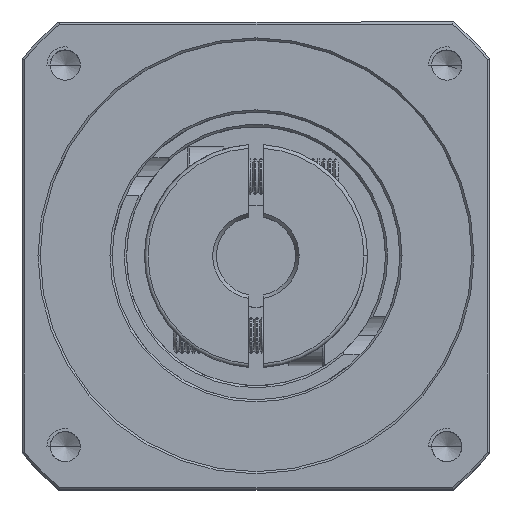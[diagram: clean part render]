
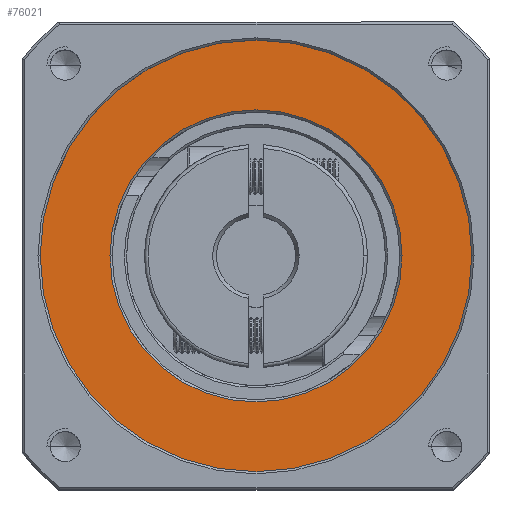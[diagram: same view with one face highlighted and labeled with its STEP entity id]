
A CAD part, top view. The second image highlights one B-rep face of the part: STEP entity #76021.
In plain terms, the highlighted planar face has unit normal (0, 0, 1).
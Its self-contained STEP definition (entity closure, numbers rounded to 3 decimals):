
#1002 = VERTEX_POINT ( 'NONE', #19109 ) ;
#1067 = CARTESIAN_POINT ( 'NONE',  ( -70.41, 31.886, 11.125 ) ) ;
#1122 = DIRECTION ( 'NONE',  ( 0., 0., -1. ) ) ;
#8459 = DIRECTION ( 'NONE',  ( 1., 0., 0. ) ) ;
#8748 = AXIS2_PLACEMENT_3D ( 'NONE', #75046, #31054, #82398 ) ;
#9372 = AXIS2_PLACEMENT_3D ( 'NONE', #25316, #76719, #32765 ) ;
#11380 = EDGE_CURVE ( 'NONE', #15835, #12738, #74453, .T. ) ;
#11706 = CARTESIAN_POINT ( 'NONE',  ( -90.71, 31.886, 11.125 ) ) ;
#12738 = VERTEX_POINT ( 'NONE', #62640 ) ;
#15835 = VERTEX_POINT ( 'NONE', #11706 ) ;
#19109 = CARTESIAN_POINT ( 'NONE',  ( -100.41, 31.886, 11.125 ) ) ;
#21889 = EDGE_CURVE ( 'NONE', #1002, #84280, #40387, .T. ) ;
#22261 = EDGE_CURVE ( 'NONE', #12738, #15835, #34515, .T. ) ;
#25316 = CARTESIAN_POINT ( 'NONE',  ( -70.41, 31.886, 11.125 ) ) ;
#28653 = ORIENTED_EDGE ( 'NONE', *, *, #11380, .T. ) ;
#31054 = DIRECTION ( 'NONE',  ( 0., 0., -1. ) ) ;
#32765 = DIRECTION ( 'NONE',  ( 1., 0., 0. ) ) ;
#33810 = CARTESIAN_POINT ( 'NONE',  ( -40.41, 31.886, 11.125 ) ) ;
#34515 = CIRCLE ( 'NONE', #50083, 20.3 ) ;
#34699 = CIRCLE ( 'NONE', #41648, 30. ) ;
#40099 = CARTESIAN_POINT ( 'NONE',  ( -70.41, 31.886, 11.125 ) ) ;
#40387 = CIRCLE ( 'NONE', #9372, 30. ) ;
#41648 = AXIS2_PLACEMENT_3D ( 'NONE', #40099, #91394, #47515 ) ;
#41701 = ORIENTED_EDGE ( 'NONE', *, *, #50366, .T. ) ;
#45161 = CARTESIAN_POINT ( 'NONE',  ( -70.41, 31.886, 11.125 ) ) ;
#47515 = DIRECTION ( 'NONE',  ( 1., 0., 0. ) ) ;
#50083 = AXIS2_PLACEMENT_3D ( 'NONE', #45161, #1122, #52583 ) ;
#50366 = EDGE_CURVE ( 'NONE', #84280, #1002, #34699, .T. ) ;
#52525 = DIRECTION ( 'NONE',  ( 0., 0., 1. ) ) ;
#52583 = DIRECTION ( 'NONE',  ( 1., 0., 0. ) ) ;
#56067 = ORIENTED_EDGE ( 'NONE', *, *, #21889, .T. ) ;
#62640 = CARTESIAN_POINT ( 'NONE',  ( -50.11, 31.886, 11.125 ) ) ;
#65981 = EDGE_LOOP ( 'NONE', ( #41701, #56067 ) ) ;
#66972 = PLANE ( 'NONE',  #88326 ) ;
#69081 = EDGE_LOOP ( 'NONE', ( #74298, #28653 ) ) ;
#74298 = ORIENTED_EDGE ( 'NONE', *, *, #22261, .T. ) ;
#74453 = CIRCLE ( 'NONE', #8748, 20.3 ) ;
#75046 = CARTESIAN_POINT ( 'NONE',  ( -70.41, 31.886, 11.125 ) ) ;
#75382 = FACE_OUTER_BOUND ( 'NONE', #65981, .T. ) ;
#76021 = ADVANCED_FACE ( 'NONE', ( #94797, #75382 ), #66972, .T. ) ;
#76719 = DIRECTION ( 'NONE',  ( 0., 0., 1. ) ) ;
#82398 = DIRECTION ( 'NONE',  ( 1., 0., 0. ) ) ;
#84280 = VERTEX_POINT ( 'NONE', #33810 ) ;
#88326 = AXIS2_PLACEMENT_3D ( 'NONE', #1067, #52525, #8459 ) ;
#91394 = DIRECTION ( 'NONE',  ( 0., 0., 1. ) ) ;
#94797 = FACE_BOUND ( 'NONE', #69081, .T. ) ;
